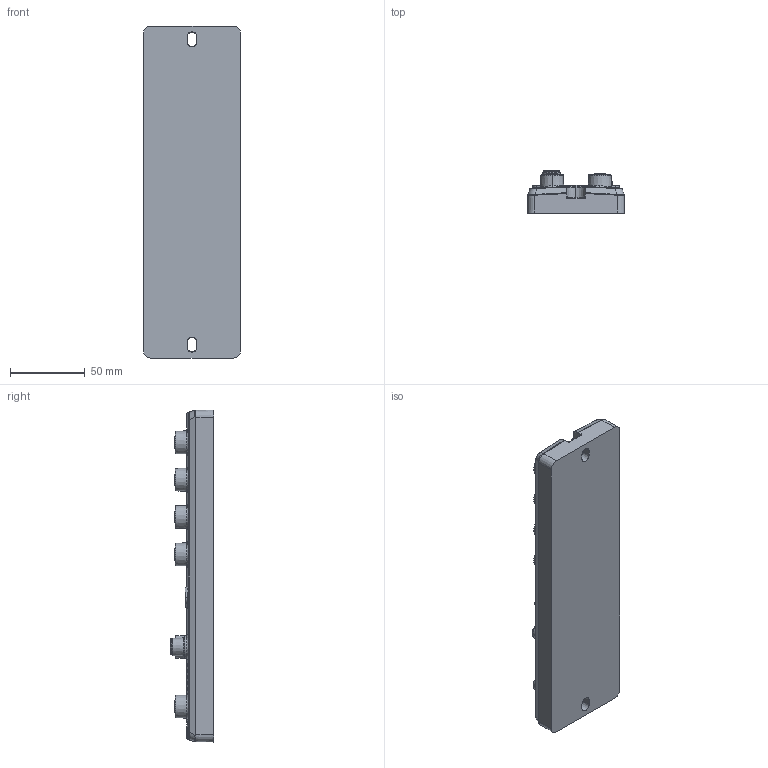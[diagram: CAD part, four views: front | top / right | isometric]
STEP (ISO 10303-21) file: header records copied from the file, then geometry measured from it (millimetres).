
FILE_DESCRIPTION((''),'2;1');
FILE_NAME('003E11','2023-03-08T',('PC'),(''),'PRO/ENGINEER BY PARAMETRIC TECHNOLOGY CORPORATION, 2009220','PRO/ENGINEER BY PARAMETRIC TECHNOLOGY CORPORATION, 2009220','');
FILE_SCHEMA(('CONFIG_CONTROL_DESIGN'));
Products named in the file (1): 003E11
Bounding box: 65 x 29 x 222.4 mm (x, y, z)
Surface area: 60658.6 mm2
Topology: 5 solids, 6 shells, 3111 faces, 8208 edges, 5325 vertices
Faces by surface type: plane 1504, cylinder 823, cone 424, revolution 102, torus 96, extrusion 90, bspline 56, sphere 16
Entity records: 114001 total; most frequent: CARTESIAN_POINT 37209, ORIENTED_EDGE 16360, DIRECTION 15244, EDGE_CURVE 8181, VERTEX_POINT 5325, AXIS2_PLACEMENT_3D 5133, VECTOR 4876, LINE 4786
